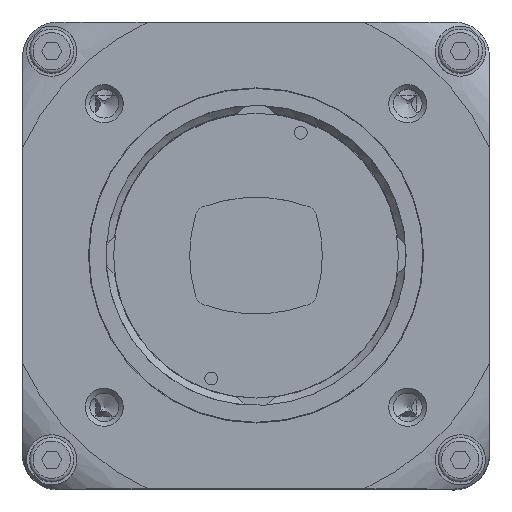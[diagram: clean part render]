
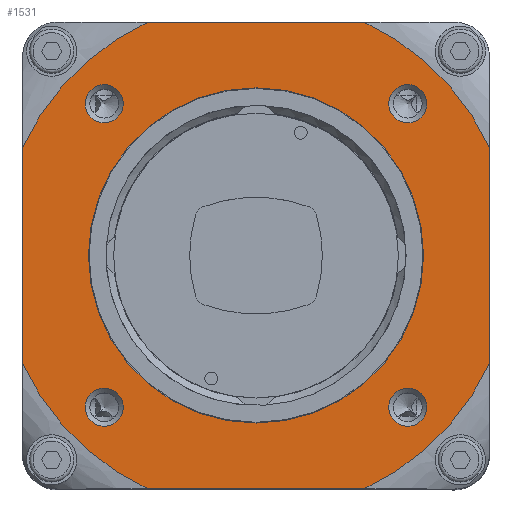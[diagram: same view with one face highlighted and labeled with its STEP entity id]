
A CAD part, top view. The second image highlights one B-rep face of the part: STEP entity #1531.
In plain terms, the highlighted planar face has unit normal (0, 0, 1).
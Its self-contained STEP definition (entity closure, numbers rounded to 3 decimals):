
#1531 = ADVANCED_FACE( '', ( #4440, #4441, #4442, #4443, #4444, #4445 ), #4446, .F. );
#4440 = FACE_BOUND( '', #9223, .T. );
#4441 = FACE_BOUND( '', #9224, .T. );
#4442 = FACE_BOUND( '', #9225, .T. );
#4443 = FACE_BOUND( '', #9226, .T. );
#4444 = FACE_BOUND( '', #9227, .T. );
#4445 = FACE_OUTER_BOUND( '', #9228, .T. );
#4446 = PLANE( '', #9229 );
#9223 = EDGE_LOOP( '', ( #16243 ) );
#9224 = EDGE_LOOP( '', ( #16244 ) );
#9225 = EDGE_LOOP( '', ( #16245 ) );
#9226 = EDGE_LOOP( '', ( #16246 ) );
#9227 = EDGE_LOOP( '', ( #16247 ) );
#9228 = EDGE_LOOP( '', ( #16248, #16249, #16250, #16251, #16252, #16253, #16254, #16255 ) );
#9229 = AXIS2_PLACEMENT_3D( '', #16256, #16257, #16258 );
#16243 = ORIENTED_EDGE( '', *, *, #28573, .T. );
#16244 = ORIENTED_EDGE( '', *, *, #28574, .T. );
#16245 = ORIENTED_EDGE( '', *, *, #28575, .T. );
#16246 = ORIENTED_EDGE( '', *, *, #28576, .T. );
#16247 = ORIENTED_EDGE( '', *, *, #28577, .T. );
#16248 = ORIENTED_EDGE( '', *, *, #28578, .F. );
#16249 = ORIENTED_EDGE( '', *, *, #28579, .T. );
#16250 = ORIENTED_EDGE( '', *, *, #28580, .F. );
#16251 = ORIENTED_EDGE( '', *, *, #28581, .T. );
#16252 = ORIENTED_EDGE( '', *, *, #28582, .F. );
#16253 = ORIENTED_EDGE( '', *, *, #28583, .T. );
#16254 = ORIENTED_EDGE( '', *, *, #28584, .F. );
#16255 = ORIENTED_EDGE( '', *, *, #28585, .T. );
#16256 = CARTESIAN_POINT( '', ( 0., 0., 12.3 ) );
#16257 = DIRECTION( '', ( 0., 0., -1. ) );
#16258 = DIRECTION( '', ( -1., 0., 0. ) );
#28573 = EDGE_CURVE( '', #33526, #33526, #33527, .T. );
#28574 = EDGE_CURVE( '', #33528, #33528, #33529, .T. );
#28575 = EDGE_CURVE( '', #33530, #33530, #33531, .T. );
#28576 = EDGE_CURVE( '', #33532, #33532, #33533, .T. );
#28577 = EDGE_CURVE( '', #33534, #33534, #33535, .T. );
#28578 = EDGE_CURVE( '', #33536, #33537, #33538, .T. );
#28579 = EDGE_CURVE( '', #33536, #33539, #33540, .T. );
#28580 = EDGE_CURVE( '', #33541, #33539, #33542, .T. );
#28581 = EDGE_CURVE( '', #33541, #33543, #33544, .T. );
#28582 = EDGE_CURVE( '', #33545, #33543, #33546, .T. );
#28583 = EDGE_CURVE( '', #33545, #33547, #33548, .T. );
#28584 = EDGE_CURVE( '', #33549, #33547, #33550, .T. );
#28585 = EDGE_CURVE( '', #33549, #33537, #33551, .T. );
#33526 = VERTEX_POINT( '', #40877 );
#33527 = CIRCLE( '', #40878, 1.63 );
#33528 = VERTEX_POINT( '', #40879 );
#33529 = CIRCLE( '', #40880, 1.63 );
#33530 = VERTEX_POINT( '', #40881 );
#33531 = CIRCLE( '', #40882, 1.63 );
#33532 = VERTEX_POINT( '', #40883 );
#33533 = CIRCLE( '', #40884, 1.63 );
#33534 = VERTEX_POINT( '', #40885 );
#33535 = CIRCLE( '', #40886, 14.35 );
#33536 = VERTEX_POINT( '', #40887 );
#33537 = VERTEX_POINT( '', #40888 );
#33538 = LINE( '', #40889, #40890 );
#33539 = VERTEX_POINT( '', #40891 );
#33540 = CIRCLE( '', #40892, 22.031 );
#33541 = VERTEX_POINT( '', #40893 );
#33542 = LINE( '', #40894, #40895 );
#33543 = VERTEX_POINT( '', #40896 );
#33544 = CIRCLE( '', #40897, 22.031 );
#33545 = VERTEX_POINT( '', #40898 );
#33546 = LINE( '', #40899, #40900 );
#33547 = VERTEX_POINT( '', #40901 );
#33548 = CIRCLE( '', #40902, 22.031 );
#33549 = VERTEX_POINT( '', #40903 );
#33550 = LINE( '', #40904, #40905 );
#33551 = CIRCLE( '', #40906, 22.031 );
#40877 = CARTESIAN_POINT( '', ( 11.371, -13., 12.3 ) );
#40878 = AXIS2_PLACEMENT_3D( '', #52698, #52699, #52700 );
#40879 = CARTESIAN_POINT( '', ( -14.63, -13., 12.3 ) );
#40880 = AXIS2_PLACEMENT_3D( '', #52701, #52702, #52703 );
#40881 = CARTESIAN_POINT( '', ( -14.63, 13., 12.3 ) );
#40882 = AXIS2_PLACEMENT_3D( '', #52704, #52705, #52706 );
#40883 = CARTESIAN_POINT( '', ( 11.371, 13., 12.3 ) );
#40884 = AXIS2_PLACEMENT_3D( '', #52707, #52708, #52709 );
#40885 = CARTESIAN_POINT( '', ( 14.35, 0., 12.3 ) );
#40886 = AXIS2_PLACEMENT_3D( '', #52710, #52711, #52712 );
#40887 = CARTESIAN_POINT( '', ( -9.238, 20., 12.3 ) );
#40888 = CARTESIAN_POINT( '', ( 9.238, 20., 12.3 ) );
#40889 = CARTESIAN_POINT( '', ( -20., 20., 12.3 ) );
#40890 = VECTOR( '', #52713, 1000. );
#40891 = CARTESIAN_POINT( '', ( -20., 9.238, 12.3 ) );
#40892 = AXIS2_PLACEMENT_3D( '', #52714, #52715, #52716 );
#40893 = CARTESIAN_POINT( '', ( -20., -9.238, 12.3 ) );
#40894 = CARTESIAN_POINT( '', ( -20., -20., 12.3 ) );
#40895 = VECTOR( '', #52717, 1000. );
#40896 = CARTESIAN_POINT( '', ( -9.238, -20., 12.3 ) );
#40897 = AXIS2_PLACEMENT_3D( '', #52718, #52719, #52720 );
#40898 = CARTESIAN_POINT( '', ( 9.238, -20., 12.3 ) );
#40899 = CARTESIAN_POINT( '', ( 20., -20., 12.3 ) );
#40900 = VECTOR( '', #52721, 1000. );
#40901 = CARTESIAN_POINT( '', ( 20., -9.238, 12.3 ) );
#40902 = AXIS2_PLACEMENT_3D( '', #52722, #52723, #52724 );
#40903 = CARTESIAN_POINT( '', ( 20., 9.238, 12.3 ) );
#40904 = CARTESIAN_POINT( '', ( 20., 20., 12.3 ) );
#40905 = VECTOR( '', #52725, 1000. );
#40906 = AXIS2_PLACEMENT_3D( '', #52726, #52727, #52728 );
#52698 = CARTESIAN_POINT( '', ( 13., -13., 12.3 ) );
#52699 = DIRECTION( '', ( 0., 0., -1. ) );
#52700 = DIRECTION( '', ( -1., 0., 0. ) );
#52701 = CARTESIAN_POINT( '', ( -13., -13., 12.3 ) );
#52702 = DIRECTION( '', ( 0., 0., -1. ) );
#52703 = DIRECTION( '', ( -1., 0., 0. ) );
#52704 = CARTESIAN_POINT( '', ( -13., 13., 12.3 ) );
#52705 = DIRECTION( '', ( 0., 0., -1. ) );
#52706 = DIRECTION( '', ( -1., 0., 0. ) );
#52707 = CARTESIAN_POINT( '', ( 13., 13., 12.3 ) );
#52708 = DIRECTION( '', ( 0., 0., -1. ) );
#52709 = DIRECTION( '', ( -1., 0., 0. ) );
#52710 = CARTESIAN_POINT( '', ( 0., 0., 12.3 ) );
#52711 = DIRECTION( '', ( 0., 0., -1. ) );
#52712 = DIRECTION( '', ( 1., 0., 0. ) );
#52713 = DIRECTION( '', ( 1., 0., 0. ) );
#52714 = CARTESIAN_POINT( '', ( 0., 0., 12.3 ) );
#52715 = DIRECTION( '', ( 0., 0., 1. ) );
#52716 = DIRECTION( '', ( 1., 0., 0. ) );
#52717 = DIRECTION( '', ( 0., 1., 0. ) );
#52718 = CARTESIAN_POINT( '', ( 0., 0., 12.3 ) );
#52719 = DIRECTION( '', ( 0., 0., 1. ) );
#52720 = DIRECTION( '', ( 1., 0., 0. ) );
#52721 = DIRECTION( '', ( -1., 0., 0. ) );
#52722 = CARTESIAN_POINT( '', ( 0., 0., 12.3 ) );
#52723 = DIRECTION( '', ( 0., 0., 1. ) );
#52724 = DIRECTION( '', ( 1., 0., 0. ) );
#52725 = DIRECTION( '', ( 0., -1., 0. ) );
#52726 = CARTESIAN_POINT( '', ( 0., 0., 12.3 ) );
#52727 = DIRECTION( '', ( 0., 0., 1. ) );
#52728 = DIRECTION( '', ( 1., 0., 0. ) );
